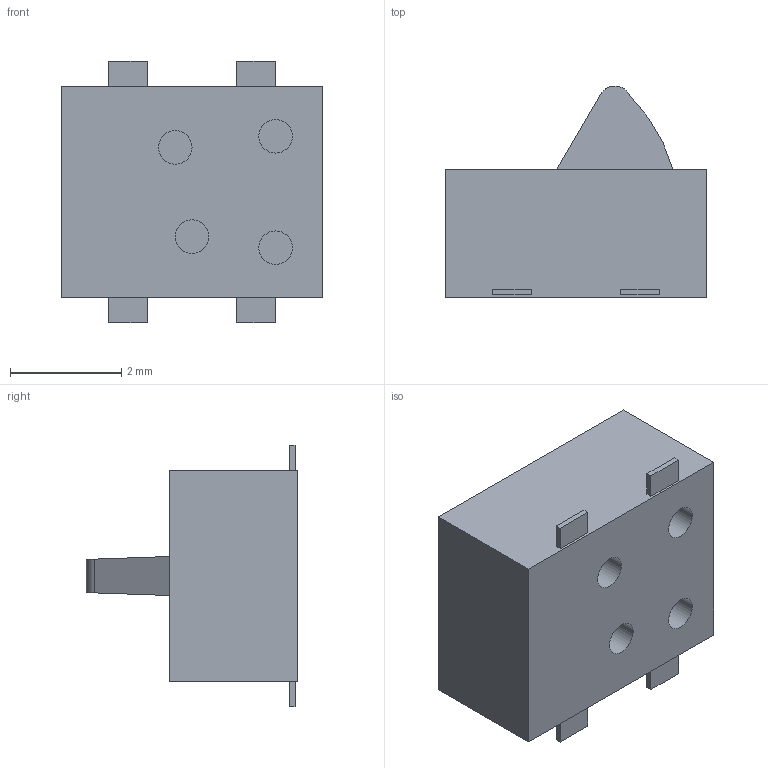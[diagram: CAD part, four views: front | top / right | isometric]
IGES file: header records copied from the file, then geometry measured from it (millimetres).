
Start section:  PTC IGES file: lid-sw-mpu-101-80-hch_prt.igs
Global section: file name: lid-sw-mpu-101-80-hch_prt.igs; native system: Pro/ENGINEER by Parametric Technology Corporation; preprocessor: 2000030; author: ECaille; organization: Unknown; date: 000803.092114; units: millimetre
Bounding box: 4.7 x 3.8 x 4.7 mm (x, y, z)
Surface area: 90 mm2 (no closed solid volume)
Topology: 0 solids, 0 shells, 43 faces, 316 edges, 432 vertices
Faces by surface type: bspline 33, revolution 10
